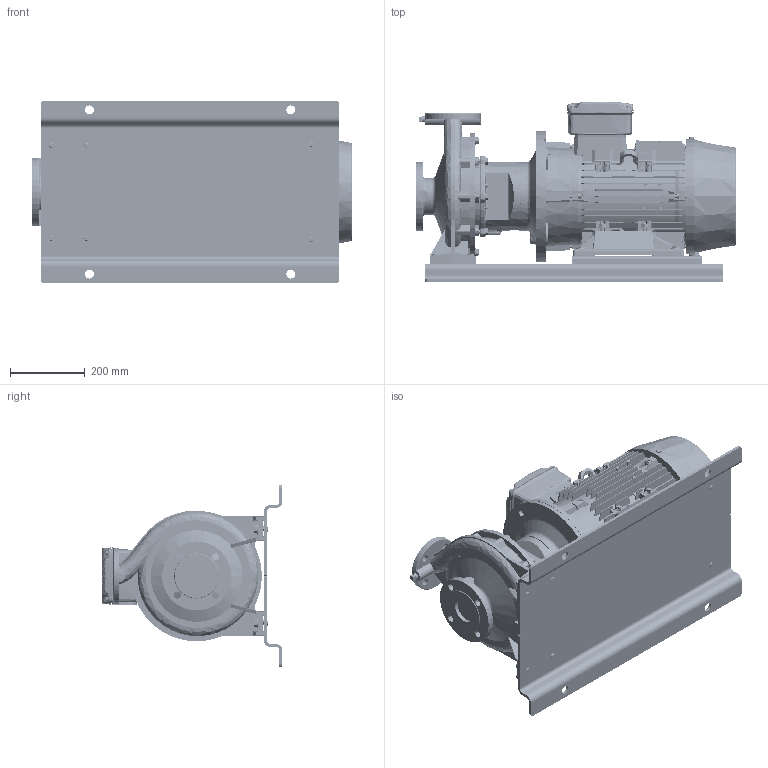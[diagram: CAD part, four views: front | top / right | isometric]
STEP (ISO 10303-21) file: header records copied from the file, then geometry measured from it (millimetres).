
FILE_DESCRIPTION (( 'STEP AP214' ), '1' );
FILE_NAME ('GSD2 40-250_15.0 & 18.5_(160ML)_W21_BP.STEP', '2024-04-05T04:16:59', ( '' ), ( '' ), 'SwSTEP 2.0', 'SolidWorks 2019', '' );
FILE_SCHEMA (( 'AUTOMOTIVE_DESIGN' ));
Length unit declared in the file: millimetre
Products named in the file (18): Parametric bolt and washer_SFT-A301B; Parametric Flat Washer_M12; Parametric bolt and washer_SFT-A299B; N5S3 GSDA-535 F1-1832926-00; Parametric bolt_SFT-A299B; 40-250-160M_L; Parametric bolt_SFT-A301B; 160M_L_ALIE3_W21T_B35; 210_254 x 20 - 271472113; GSD2  40-250_15.0 & 18.5_(160ML)_W21_BP
Assembly tree (35 placements, depth 3):
  GSD2  40-250_15.0 & 18.5_(160ML)_W21_BP
    40-250-160M_L
    N5S3 GSDA-535 F1-1832926-00
    210_254 x 20 - 271472113  x2
    Parametric bolt and washer_SFT-A299B
      Parametric bolt_SFT-A299B
      Parametric Flat Washer_M12
    Parametric bolt and washer_SFT-A299B
      Parametric bolt_SFT-A299B
      Parametric Flat Washer_M12
    Parametric bolt and washer_SFT-A301B
      Parametric bolt_SFT-A301B
      Parametric Flat Washer_M12
    Parametric bolt and washer_SFT-A301B
      Parametric bolt_SFT-A301B
      Parametric Flat Washer_M12
    Parametric bolt and washer_SFT-A299B
      Parametric bolt_SFT-A299B
      Parametric Flat Washer_M12
    Parametric bolt and washer_SFT-A299B
      Parametric bolt_SFT-A299B
      Parametric Flat Washer_M12
    Parametric bolt and washer_SFT-A301B
      Parametric bolt_SFT-A301B
      Parametric Flat Washer_M12
    Parametric bolt and washer_SFT-A301B
      Parametric bolt_SFT-A301B
      Parametric Flat Washer_M12
    Parametric bolt and washer_SFT-A301B
      Parametric bolt_SFT-A301B
      Parametric Flat Washer_M12
    Parametric bolt and washer_SFT-A301B
      Parametric bolt_SFT-A301B
      Parametric Flat Washer_M12
    160M_L_ALIE3_W21T_B35
Bounding box: 860.3 x 484.53 x 490 mm (x, y, z)
Volume: 48648599.5 mm3; surface area: 3851298.6 mm2
Topology: 72 solids, 78 shells, 6520 faces, 16906 edges, 10981 vertices
Faces by surface type: plane 3879, cylinder 1317, cone 615, bspline 443, torus 250, sphere 16
Entity records: 286313 total; most frequent: CARTESIAN_POINT 79055, ORIENTED_EDGE 31158, DIRECTION 26715, EDGE_CURVE 15579, VERTEX_POINT 10134, VECTOR 9805, LINE 9805, AXIS2_PLACEMENT_3D 8455
